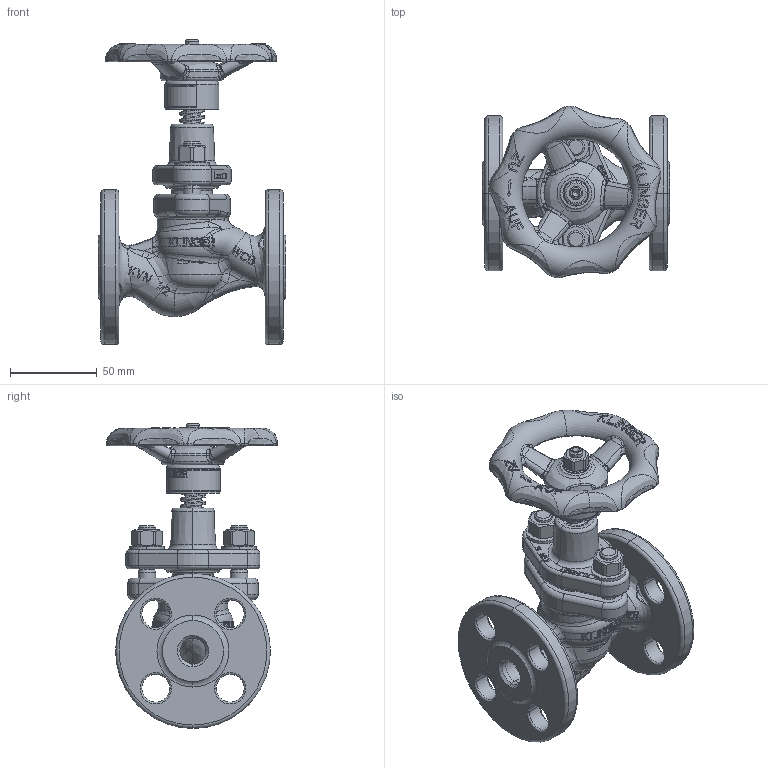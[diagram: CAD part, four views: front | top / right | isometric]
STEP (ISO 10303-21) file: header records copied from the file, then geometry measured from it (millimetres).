
FILE_DESCRIPTION((''),'2;1');
FILE_NAME('KVNFL-12S-----C150PGG_SW0001','2025-04-11T08:22:16',('jeitlers'),('KLINGER'),'CREO PARAMETRIC BY PTC INC, 2023014','CREO PARAMETRIC BY PTC INC, 2023014','');
FILE_SCHEMA(('CONFIG_CONTROL_DESIGN'));
Products named in the file (1): KVNFL-12S-----C150PGG_SW0001
Bounding box: 108 x 98.65 x 175.3 mm (x, y, z)
Volume: 300865.8 mm3; surface area: 97842.4 mm2
Topology: 2 solids, 9 shells, 2659 faces, 7136 edges, 4547 vertices
Faces by surface type: plane 1507, bspline 539, cylinder 292, torus 234, cone 81, sphere 6
Entity records: 143135 total; most frequent: CARTESIAN_POINT 82867, ORIENTED_EDGE 14264, DIRECTION 10005, EDGE_CURVE 7132, VERTEX_POINT 4547, AXIS2_PLACEMENT_3D 3470, VECTOR 3065, LINE 3065
